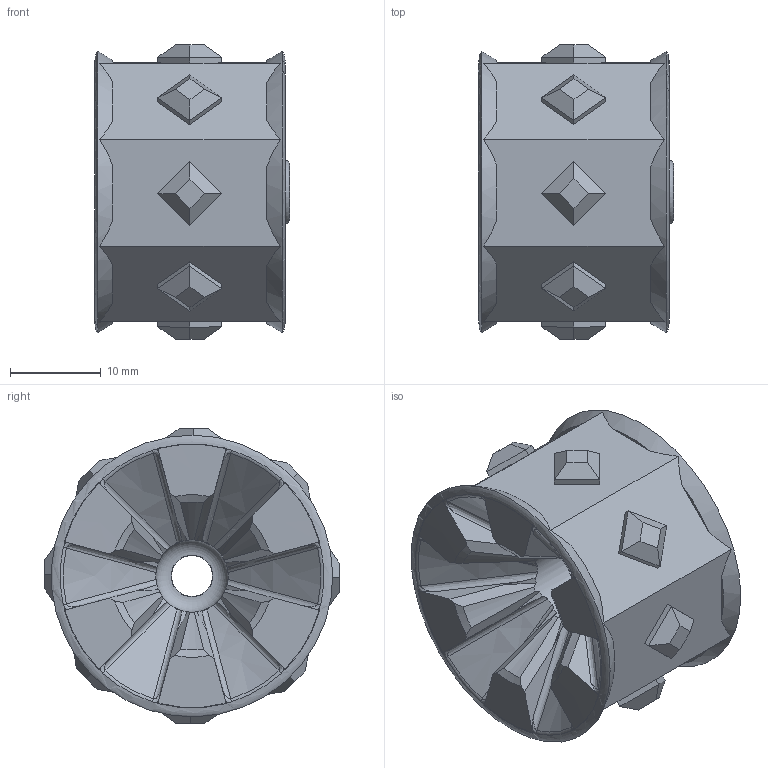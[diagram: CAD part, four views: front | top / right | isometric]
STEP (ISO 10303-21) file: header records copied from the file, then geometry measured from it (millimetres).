
FILE_DESCRIPTION(/* description */ ('Alibre Inc.'),/* implementation_level */ '2;1');
FILE_NAME(/* name */ 'export0',/* time_stamp */ '2018-08-03T14:56:26-04:00',/* author */ (''),/* organization */ (''),/* preprocessor_version */ 'ST-DEVELOPER v17',/* originating_system */ 'Alibre',/* authorisation */ '');
FILE_SCHEMA (('AUTOMOTIVE_DESIGN'));
Length unit declared in the file: millimetre
Bounding box: 21.54 x 32.52 x 32.52 mm (x, y, z)
Volume: 12439.8 mm3; surface area: 4315.2 mm2
Topology: 1 solids, 1 shells, 215 faces, 565 edges, 361 vertices
Faces by surface type: plane 123, cone 44, bspline 36, torus 10, cylinder 2
Full cylindrical faces by diameter (mm): 4.5 x1, 8 x1
Entity records: 13003 total; most frequent: CARTESIAN_POINT 8433, ORIENTED_EDGE 1106, DIRECTION 652, EDGE_CURVE 553, VERTEX_POINT 357, AXIS2_PLACEMENT_3D 264, EDGE_LOOP 234, FACE_BOUND 234
